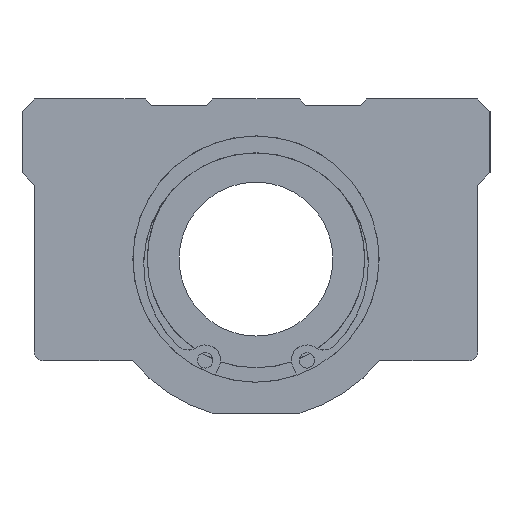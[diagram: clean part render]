
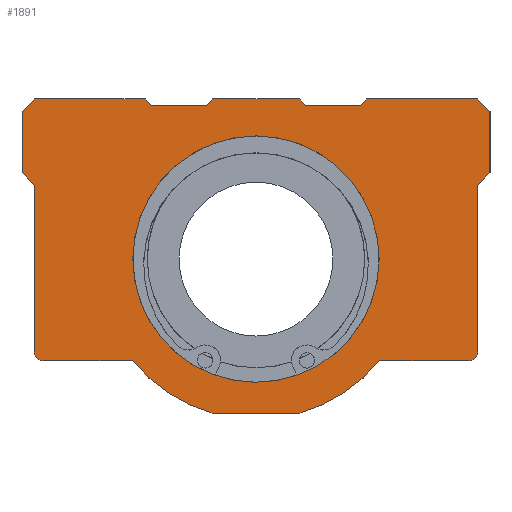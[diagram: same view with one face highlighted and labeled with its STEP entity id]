
A CAD part, left-side view. The second image highlights one B-rep face of the part: STEP entity #1891.
In plain terms, the highlighted planar face has unit normal (-1, 0, 0).
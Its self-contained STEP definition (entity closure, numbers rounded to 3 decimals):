
#1279=CARTESIAN_POINT('',(0.0,20.0,0.));
#1280=VERTEX_POINT('',#1279);
#1281=CARTESIAN_POINT('',(0.0,0.0,0.0));
#1282=DIRECTION('',(1.0,0.0,0.0));
#1283=DIRECTION('',(0.0,-1.0,0.0));
#1284=AXIS2_PLACEMENT_3D('',#1281,#1282,#1283);
#1285=CIRCLE('',#1284,20.0);
#1286=EDGE_CURVE('',#1280,#1280,#1285,.T.);
#1302=CARTESIAN_POINT('',(0.0,8.,25.0));
#1303=VERTEX_POINT('',#1302);
#1304=CARTESIAN_POINT('',(0.0,7.,26.));
#1305=VERTEX_POINT('',#1304);
#1306=CARTESIAN_POINT('',(0.0,8.,25.0));
#1307=DIRECTION('',(0.0,-0.707,0.707));
#1308=VECTOR('',#1307,1.414);
#1309=LINE('',#1306,#1308);
#1310=EDGE_CURVE('',#1303,#1305,#1309,.T.);
#1352=CARTESIAN_POINT('',(0.0,-7.,26.));
#1353=VERTEX_POINT('',#1352);
#1360=CARTESIAN_POINT('',(0.0,-8.,25.0));
#1361=VERTEX_POINT('',#1360);
#1362=CARTESIAN_POINT('',(0.0,-7.,26.));
#1363=DIRECTION('',(0.0,-0.707,-0.707));
#1364=VECTOR('',#1363,1.414);
#1365=LINE('',#1362,#1364);
#1366=EDGE_CURVE('',#1353,#1361,#1365,.T.);
#1389=CARTESIAN_POINT('',(0.0,7.,26.));
#1390=DIRECTION('',(0.0,-1.0,0.0));
#1391=VECTOR('',#1390,14.0);
#1392=LINE('',#1389,#1391);
#1393=EDGE_CURVE('',#1305,#1353,#1392,.T.);
#1413=CARTESIAN_POINT('',(0.0,17.,25.0));
#1414=VERTEX_POINT('',#1413);
#1421=CARTESIAN_POINT('',(0.0,17.,25.0));
#1422=DIRECTION('',(0.0,-1.0,0.0));
#1423=VECTOR('',#1422,9.);
#1424=LINE('',#1421,#1423);
#1425=EDGE_CURVE('',#1414,#1303,#1424,.T.);
#1436=CARTESIAN_POINT('',(0.0,-17.0,25.0));
#1437=VERTEX_POINT('',#1436);
#1438=CARTESIAN_POINT('',(0.0,-8.,25.0));
#1439=DIRECTION('',(0.0,-1.0,0.0));
#1440=VECTOR('',#1439,9.);
#1441=LINE('',#1438,#1440);
#1442=EDGE_CURVE('',#1361,#1437,#1441,.T.);
#1477=CARTESIAN_POINT('',(0.0,34.5,-16.5));
#1478=VERTEX_POINT('',#1477);
#1485=CARTESIAN_POINT('',(0.0,36.0,-15.));
#1486=VERTEX_POINT('',#1485);
#1487=CARTESIAN_POINT('',(0.0,34.5,-15.));
#1488=DIRECTION('',(1.0,0.0,0.0));
#1489=DIRECTION('',(0.0,0.707,-0.707));
#1490=AXIS2_PLACEMENT_3D('',#1487,#1488,#1489);
#1491=CIRCLE('',#1490,1.5);
#1492=EDGE_CURVE('',#1478,#1486,#1491,.T.);
#1517=CARTESIAN_POINT('',(0.0,20.094,-16.5));
#1518=VERTEX_POINT('',#1517);
#1525=CARTESIAN_POINT('',(0.0,20.094,-16.5));
#1526=DIRECTION('',(0.0,1.0,0.0));
#1527=VECTOR('',#1526,14.406);
#1528=LINE('',#1525,#1527);
#1529=EDGE_CURVE('',#1518,#1478,#1528,.T.);
#1723=CARTESIAN_POINT('',(0.0,-36.0,-15.));
#1724=VERTEX_POINT('',#1723);
#1731=CARTESIAN_POINT('',(0.0,-34.5,-16.5));
#1732=VERTEX_POINT('',#1731);
#1733=CARTESIAN_POINT('',(0.0,-34.5,-15.));
#1734=DIRECTION('',(1.0,0.0,0.0));
#1735=DIRECTION('',(0.0,-0.707,-0.707));
#1736=AXIS2_PLACEMENT_3D('',#1733,#1734,#1735);
#1737=CIRCLE('',#1736,1.5);
#1738=EDGE_CURVE('',#1724,#1732,#1737,.T.);
#1749=CARTESIAN_POINT('',(0.0,0.,3.14));
#1750=DIRECTION('',(1.0,0.0,0.0));
#1751=DIRECTION('',(0.0,0.0,-1.0));
#1752=AXIS2_PLACEMENT_3D('',#1749,#1750,#1751);
#1753=PLANE('',#1752);
#1754=ORIENTED_EDGE('',*,*,#1492,.F.);
#1755=ORIENTED_EDGE('',*,*,#1529,.F.);
#1756=CARTESIAN_POINT('',(0.0,7.141,-25.0));
#1757=VERTEX_POINT('',#1756);
#1758=CARTESIAN_POINT('',(0.0,0.0,0.0));
#1759=DIRECTION('',(1.0,0.0,0.0));
#1760=DIRECTION('',(0.0,0.275,-0.962));
#1761=AXIS2_PLACEMENT_3D('',#1758,#1759,#1760);
#1762=CIRCLE('',#1761,26.0);
#1763=EDGE_CURVE('',#1757,#1518,#1762,.T.);
#1764=ORIENTED_EDGE('',*,*,#1763,.F.);
#1765=CARTESIAN_POINT('',(0.0,-7.141,-25.0));
#1766=VERTEX_POINT('',#1765);
#1767=CARTESIAN_POINT('',(0.0,-7.141,-25.0));
#1768=DIRECTION('',(0.0,1.0,0.0));
#1769=VECTOR('',#1768,14.283);
#1770=LINE('',#1767,#1769);
#1771=EDGE_CURVE('',#1766,#1757,#1770,.T.);
#1772=ORIENTED_EDGE('',*,*,#1771,.F.);
#1773=CARTESIAN_POINT('',(0.0,-20.094,-16.5));
#1774=VERTEX_POINT('',#1773);
#1775=CARTESIAN_POINT('',(0.0,0.0,0.0));
#1776=DIRECTION('',(1.0,0.0,0.0));
#1777=DIRECTION('',(0.0,0.275,-0.962));
#1778=AXIS2_PLACEMENT_3D('',#1775,#1776,#1777);
#1779=CIRCLE('',#1778,26.0);
#1780=EDGE_CURVE('',#1774,#1766,#1779,.T.);
#1781=ORIENTED_EDGE('',*,*,#1780,.F.);
#1782=CARTESIAN_POINT('',(0.0,-34.5,-16.5));
#1783=DIRECTION('',(0.0,1.0,0.0));
#1784=VECTOR('',#1783,14.406);
#1785=LINE('',#1782,#1784);
#1786=EDGE_CURVE('',#1732,#1774,#1785,.T.);
#1787=ORIENTED_EDGE('',*,*,#1786,.F.);
#1788=ORIENTED_EDGE('',*,*,#1738,.F.);
#1789=CARTESIAN_POINT('',(0.0,-36.,12.));
#1790=VERTEX_POINT('',#1789);
#1791=CARTESIAN_POINT('',(0.0,-36.,12.));
#1792=DIRECTION('',(0.0,0.0,-1.0));
#1793=VECTOR('',#1792,27.);
#1794=LINE('',#1791,#1793);
#1795=EDGE_CURVE('',#1790,#1724,#1794,.T.);
#1796=ORIENTED_EDGE('',*,*,#1795,.F.);
#1797=CARTESIAN_POINT('',(0.0,-38.0,14.));
#1798=VERTEX_POINT('',#1797);
#1799=CARTESIAN_POINT('',(0.0,-38.0,14.));
#1800=DIRECTION('',(0.0,0.707,-0.707));
#1801=VECTOR('',#1800,2.828);
#1802=LINE('',#1799,#1801);
#1803=EDGE_CURVE('',#1798,#1790,#1802,.T.);
#1804=ORIENTED_EDGE('',*,*,#1803,.F.);
#1805=CARTESIAN_POINT('',(0.0,-38.0,24.));
#1806=VERTEX_POINT('',#1805);
#1807=CARTESIAN_POINT('',(0.0,-38.0,24.));
#1808=DIRECTION('',(0.0,0.0,-1.0));
#1809=VECTOR('',#1808,10.);
#1810=LINE('',#1807,#1809);
#1811=EDGE_CURVE('',#1806,#1798,#1810,.T.);
#1812=ORIENTED_EDGE('',*,*,#1811,.F.);
#1813=CARTESIAN_POINT('',(0.0,-36.0,26.));
#1814=VERTEX_POINT('',#1813);
#1815=CARTESIAN_POINT('',(0.0,-36.0,26.));
#1816=DIRECTION('',(0.0,-0.707,-0.707));
#1817=VECTOR('',#1816,2.828);
#1818=LINE('',#1815,#1817);
#1819=EDGE_CURVE('',#1814,#1806,#1818,.T.);
#1820=ORIENTED_EDGE('',*,*,#1819,.F.);
#1821=CARTESIAN_POINT('',(0.0,-18.0,26.));
#1822=VERTEX_POINT('',#1821);
#1823=CARTESIAN_POINT('',(0.0,-18.0,26.));
#1824=DIRECTION('',(0.0,-1.0,0.0));
#1825=VECTOR('',#1824,18.0);
#1826=LINE('',#1823,#1825);
#1827=EDGE_CURVE('',#1822,#1814,#1826,.T.);
#1828=ORIENTED_EDGE('',*,*,#1827,.F.);
#1829=CARTESIAN_POINT('',(0.0,-17.0,25.0));
#1830=DIRECTION('',(0.0,-0.707,0.707));
#1831=VECTOR('',#1830,1.414);
#1832=LINE('',#1829,#1831);
#1833=EDGE_CURVE('',#1437,#1822,#1832,.T.);
#1834=ORIENTED_EDGE('',*,*,#1833,.F.);
#1835=ORIENTED_EDGE('',*,*,#1442,.F.);
#1836=ORIENTED_EDGE('',*,*,#1366,.F.);
#1837=ORIENTED_EDGE('',*,*,#1393,.F.);
#1838=ORIENTED_EDGE('',*,*,#1310,.F.);
#1839=ORIENTED_EDGE('',*,*,#1425,.F.);
#1840=CARTESIAN_POINT('',(0.0,18.0,26.));
#1841=VERTEX_POINT('',#1840);
#1842=CARTESIAN_POINT('',(0.0,18.0,26.));
#1843=DIRECTION('',(0.0,-0.707,-0.707));
#1844=VECTOR('',#1843,1.414);
#1845=LINE('',#1842,#1844);
#1846=EDGE_CURVE('',#1841,#1414,#1845,.T.);
#1847=ORIENTED_EDGE('',*,*,#1846,.F.);
#1848=CARTESIAN_POINT('',(0.0,36.0,26.));
#1849=VERTEX_POINT('',#1848);
#1850=CARTESIAN_POINT('',(0.0,36.0,26.));
#1851=DIRECTION('',(0.0,-1.0,0.0));
#1852=VECTOR('',#1851,18.0);
#1853=LINE('',#1850,#1852);
#1854=EDGE_CURVE('',#1849,#1841,#1853,.T.);
#1855=ORIENTED_EDGE('',*,*,#1854,.F.);
#1856=CARTESIAN_POINT('',(0.0,38.0,24.));
#1857=VERTEX_POINT('',#1856);
#1858=CARTESIAN_POINT('',(0.0,38.0,24.));
#1859=DIRECTION('',(0.0,-0.707,0.707));
#1860=VECTOR('',#1859,2.828);
#1861=LINE('',#1858,#1860);
#1862=EDGE_CURVE('',#1857,#1849,#1861,.T.);
#1863=ORIENTED_EDGE('',*,*,#1862,.F.);
#1864=CARTESIAN_POINT('',(0.0,38.0,14.));
#1865=VERTEX_POINT('',#1864);
#1866=CARTESIAN_POINT('',(0.0,38.0,14.));
#1867=DIRECTION('',(0.0,0.0,1.0));
#1868=VECTOR('',#1867,10.);
#1869=LINE('',#1866,#1868);
#1870=EDGE_CURVE('',#1865,#1857,#1869,.T.);
#1871=ORIENTED_EDGE('',*,*,#1870,.F.);
#1872=CARTESIAN_POINT('',(0.0,36.,12.));
#1873=VERTEX_POINT('',#1872);
#1874=CARTESIAN_POINT('',(0.0,36.,12.));
#1875=DIRECTION('',(0.0,0.707,0.707));
#1876=VECTOR('',#1875,2.828);
#1877=LINE('',#1874,#1876);
#1878=EDGE_CURVE('',#1873,#1865,#1877,.T.);
#1879=ORIENTED_EDGE('',*,*,#1878,.F.);
#1880=CARTESIAN_POINT('',(0.0,36.0,-15.));
#1881=DIRECTION('',(0.0,0.0,1.0));
#1882=VECTOR('',#1881,27.);
#1883=LINE('',#1880,#1882);
#1884=EDGE_CURVE('',#1486,#1873,#1883,.T.);
#1885=ORIENTED_EDGE('',*,*,#1884,.F.);
#1886=EDGE_LOOP('',(#1754,#1755,#1764,#1772,#1781,#1787,#1788,#1796,#1804,#1812,#1820,#1828,#1834,#1835,#1836,#1837,#1838,#1839,#1847,#1855,#1863,#1871,#1879,#1885));
#1887=FACE_OUTER_BOUND('',#1886,.T.);
#1888=ORIENTED_EDGE('',*,*,#1286,.T.);
#1889=EDGE_LOOP('',(#1888));
#1890=FACE_BOUND('',#1889,.T.);
#1891=ADVANCED_FACE('',(#1887,#1890),#1753,.F.);
